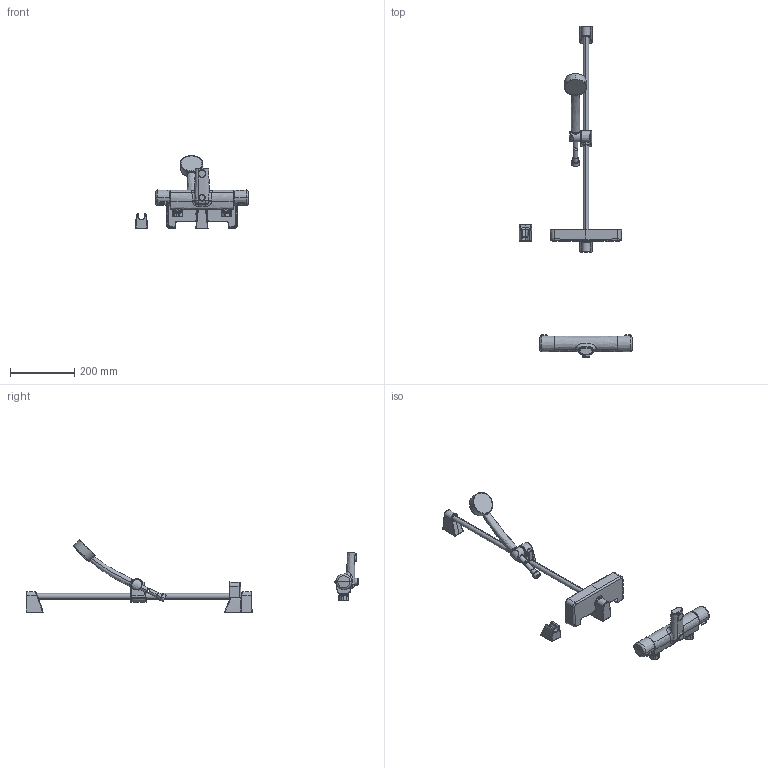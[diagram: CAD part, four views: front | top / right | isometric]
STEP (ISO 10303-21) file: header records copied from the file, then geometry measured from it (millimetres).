
FILE_DESCRIPTION (( 'STEP AP203' ), '1' );
FILE_NAME ('7448(2016).STEP', '2018-05-03T04:01:30', ( '' ), ( '' ), 'SwSTEP 2.0', 'SolidWorks 2016', '' );
FILE_SCHEMA (( 'CONFIG_CONTROL_DESIGN' ));
Length unit declared in the file: millimetre
Products named in the file (1): 7448(2016)
Bounding box: 351.61 x 1029.94 x 225.77 mm (x, y, z)
Volume: 1581644 mm3; surface area: 283186.9 mm2
Topology: 23 solids, 23 shells, 977 faces, 2296 edges, 1356 vertices
Faces by surface type: bspline 528, cylinder 116, torus 112, plane 107, cone 69, sphere 45
Entity records: 65545 total; most frequent: CARTESIAN_POINT 47370, ORIENTED_EDGE 4518, DIRECTION 2760, EDGE_CURVE 2259, VERTEX_POINT 1348, AXIS2_PLACEMENT_3D 1266, B_SPLINE_CURVE_WITH_KNOTS 1153, EDGE_LOOP 995
